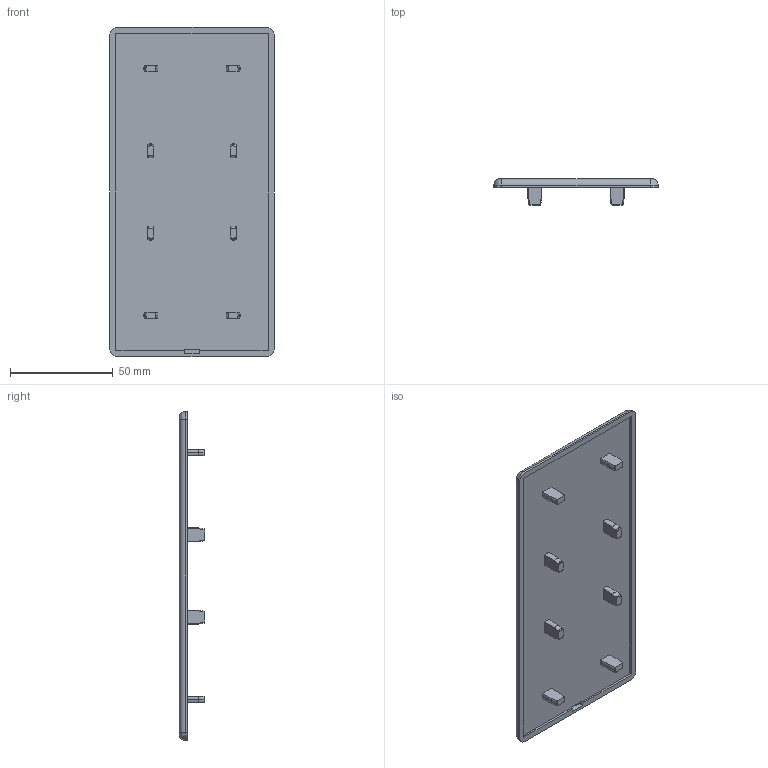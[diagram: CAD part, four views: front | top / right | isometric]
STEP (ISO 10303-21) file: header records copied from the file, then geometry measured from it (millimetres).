
FILE_DESCRIPTION (( 'STEP AP214' ), '1' );
FILE_NAME ('10005_ABD16080.STEP', '2016-12-22T11:45:43', ( '' ), ( '' ), 'SwSTEP 2.0', 'SolidWorks 2016', '' );
FILE_SCHEMA (( 'AUTOMOTIVE_DESIGN' ));
Length unit declared in the file: millimetre
Products named in the file (1): 10005_ABD16080
Bounding box: 80 x 12.5 x 160 mm (x, y, z)
Volume: 40269 mm3; surface area: 28677.4 mm2
Topology: 1 solids, 1 shells, 113 faces, 294 edges, 192 vertices
Faces by surface type: plane 41, cylinder 28, bspline 24, cone 20
Entity records: 4067 total; most frequent: CARTESIAN_POINT 1458, ORIENTED_EDGE 588, DIRECTION 470, EDGE_CURVE 294, VERTEX_POINT 192, AXIS2_PLACEMENT_3D 174, EDGE_LOOP 122, VECTOR 122
